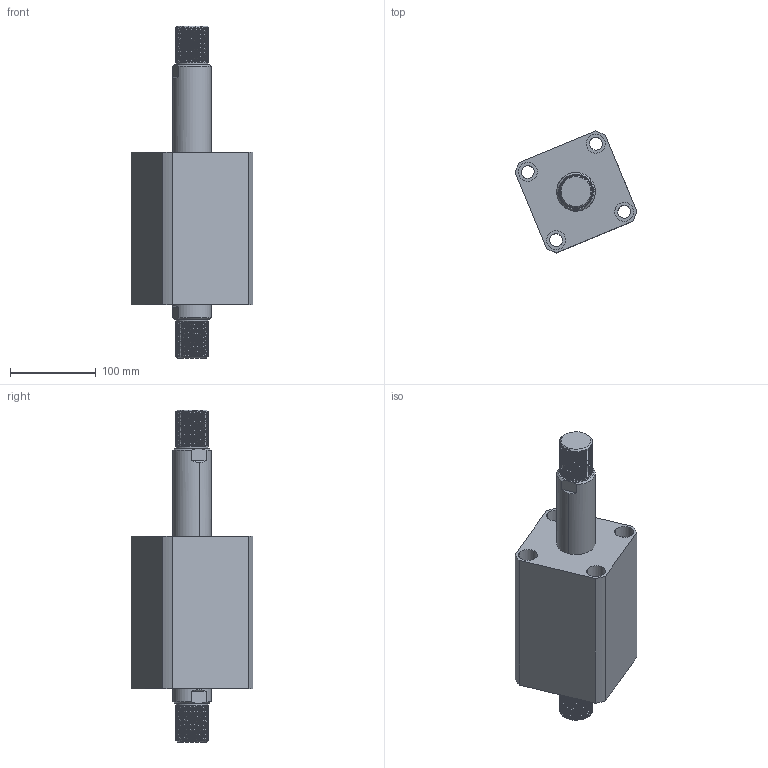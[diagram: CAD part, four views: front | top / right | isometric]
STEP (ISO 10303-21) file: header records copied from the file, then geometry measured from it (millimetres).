
FILE_DESCRIPTION (( 'STEP AP214' ), '1' );
FILE_NAME ('chtb-sw80x85w_asm.STEP', '2018-05-28T02:11:50', ( 'Windows' ), ( 'Microsoft' ), 'SwSTEP 2.0', 'SolidWorks 2015', '' );
FILE_SCHEMA (( 'AUTOMOTIVE_DESIGN' ));
Length unit declared in the file: millimetre
Products named in the file (4): CHTB-SW80X85WHSG; CHTB-SW80X85NBT; CHTB-SD80QG; chtb-sw80x85w_asm
Assembly tree (3 placements, depth 2):
  chtb-sw80x85w_asm
    CHTB-SD80QG
    CHTB-SW80X85NBT
    CHTB-SW80X85WHSG
Bounding box: 142.06 x 142.06 x 387 mm (x, y, z)
Volume: 2111712.8 mm3; surface area: 280414.6 mm2
Topology: 3 solids, 3 shells, 330 faces, 908 edges, 607 vertices
Faces by surface type: cylinder 221, plane 48, cone 25, bspline 18, torus 18
Entity records: 25864 total; most frequent: CARTESIAN_POINT 18238, ORIENTED_EDGE 1808, DIRECTION 1338, EDGE_CURVE 904, VERTEX_POINT 607, AXIS2_PLACEMENT_3D 532, EDGE_LOOP 373, ADVANCED_FACE 330
